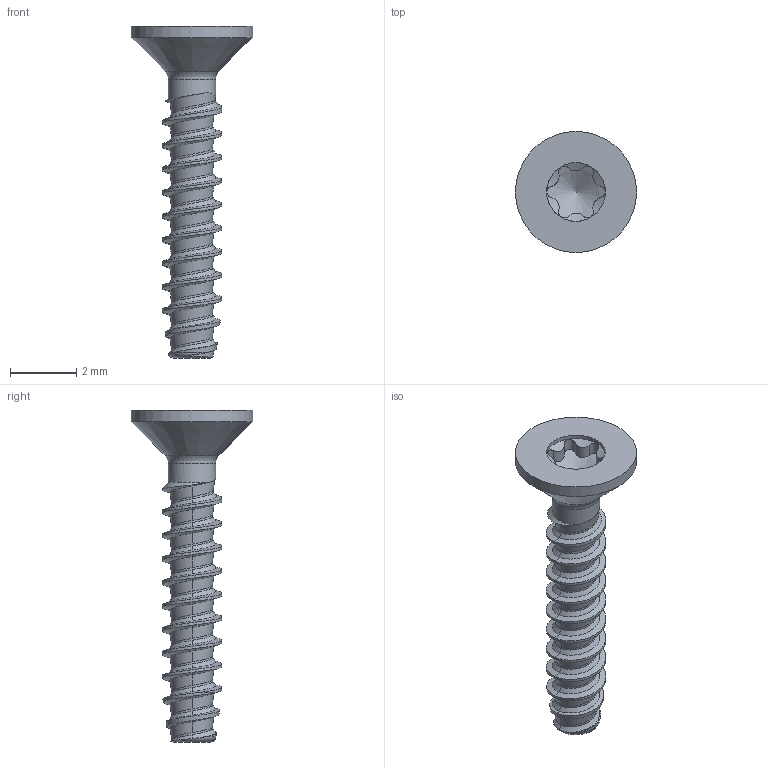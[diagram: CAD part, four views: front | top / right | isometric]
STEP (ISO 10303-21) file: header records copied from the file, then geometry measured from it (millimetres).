
FILE_DESCRIPTION(/* description */ (''),/* implementation_level */ '2;1');
FILE_NAME(/* name */ 'KN6041-STSplus18x10-T6.step',/* time_stamp */ '2017-10-12T08:41:48+02:00',/* author */ (''),/* organization */ (''),/* preprocessor_version */ 'ST-DEVELOPER v16',/* originating_system */ 'SIEMENS PLM Software NX 10.0',/* authorisation */ '');
FILE_SCHEMA (('AUTOMOTIVE_DESIGN { 1 0 10303 214 3 1 1 1 }'));
Length unit declared in the file: millimetre
Products named in the file (1): KN6041-STSplus18x10-T6
Bounding box: 3.65 x 3.65 x 10 mm (x, y, z)
Volume: 21.5 mm3; surface area: 86.5 mm2
Topology: 1 solids, 1 shells, 75 faces, 194 edges, 121 vertices
Faces by surface type: bspline 48, cylinder 17, cone 5, plane 3, torus 2
Full cylindrical faces by diameter (mm): 1.42 x1, 1.77 x1, 3.65 x1
Entity records: 5470 total; most frequent: CARTESIAN_POINT 4063, ORIENTED_EDGE 358, EDGE_CURVE 179, DIRECTION 135, VERTEX_POINT 115, B_SPLINE_CURVE_WITH_KNOTS 112, EDGE_LOOP 83, ADVANCED_FACE 75
